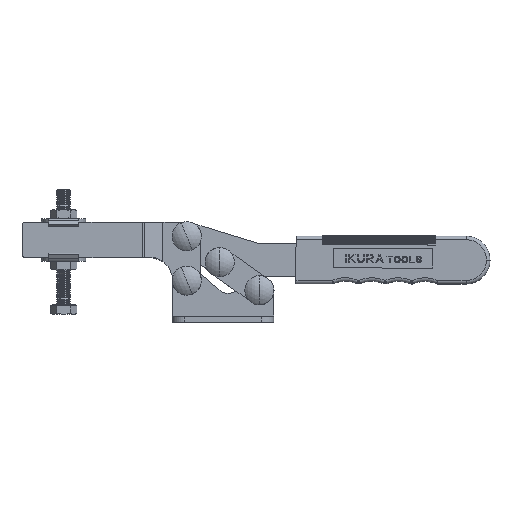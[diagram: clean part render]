
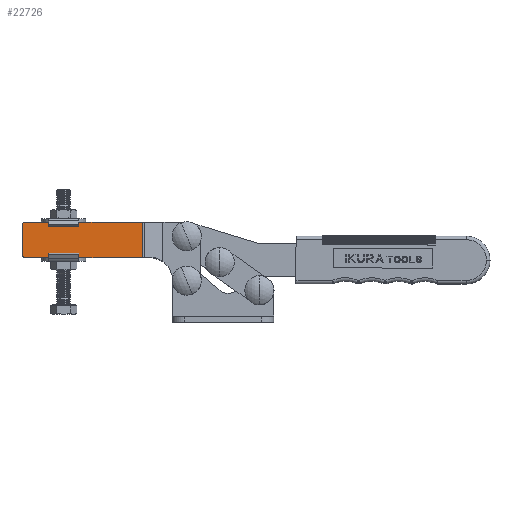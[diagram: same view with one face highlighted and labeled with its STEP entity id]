
A CAD part, top view. The second image highlights one B-rep face of the part: STEP entity #22726.
In plain terms, the highlighted planar face has unit normal (0, 0, 1).
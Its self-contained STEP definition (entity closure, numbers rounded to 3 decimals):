
#689 = DIRECTION ( 'NONE',  ( 1., 0., 0. ) ) ;
#1409 = LINE ( 'NONE', #23791, #13913 ) ;
#1755 = CARTESIAN_POINT ( 'NONE',  ( -33.078, -41., 6.5 ) ) ;
#3712 = DIRECTION ( 'NONE',  ( 1., 0., 0. ) ) ;
#4209 = ORIENTED_EDGE ( 'NONE', *, *, #59602, .T. ) ;
#5184 = DIRECTION ( 'NONE',  ( 0., 0., 1. ) ) ;
#5673 = EDGE_CURVE ( 'NONE', #34408, #45544, #17971, .T. ) ;
#6818 = DIRECTION ( 'NONE',  ( 0., 0., 1. ) ) ;
#8194 = VERTEX_POINT ( 'NONE', #16738 ) ;
#12725 = DIRECTION ( 'NONE',  ( 0., 1., 0. ) ) ;
#13052 = LINE ( 'NONE', #59913, #36571 ) ;
#13913 = VECTOR ( 'NONE', #56190, 1000. ) ;
#14813 = VERTEX_POINT ( 'NONE', #47816 ) ;
#15284 = EDGE_CURVE ( 'NONE', #34408, #14813, #32903, .T. ) ;
#16473 = CARTESIAN_POINT ( 'NONE',  ( -99., 0., 6.5 ) ) ;
#16570 = LINE ( 'NONE', #1755, #40091 ) ;
#16738 = CARTESIAN_POINT ( 'NONE',  ( -33.078, 0., 6.5 ) ) ;
#17971 = LINE ( 'NONE', #22174, #55397 ) ;
#19149 = CARTESIAN_POINT ( 'NONE',  ( -101., -41., 6.5 ) ) ;
#20213 = VERTEX_POINT ( 'NONE', #58249 ) ;
#20776 = EDGE_CURVE ( 'NONE', #56094, #45544, #44172, .T. ) ;
#21661 = EDGE_CURVE ( 'NONE', #14813, #20213, #1409, .T. ) ;
#22017 = CARTESIAN_POINT ( 'NONE',  ( -101., -18., 6.5 ) ) ;
#22174 = CARTESIAN_POINT ( 'NONE',  ( -101., -41., 6.5 ) ) ;
#22726 = ADVANCED_FACE ( 'NONE', ( #38531 ), #33292, .T. ) ;
#23791 = CARTESIAN_POINT ( 'NONE',  ( -101., -20., 6.5 ) ) ;
#24706 = ORIENTED_EDGE ( 'NONE', *, *, #5673, .F. ) ;
#25612 = AXIS2_PLACEMENT_3D ( 'NONE', #34983, #6818, #39733 ) ;
#28805 = DIRECTION ( 'NONE',  ( 0., 0., 1. ) ) ;
#29562 = ORIENTED_EDGE ( 'NONE', *, *, #21661, .T. ) ;
#32903 = CIRCLE ( 'NONE', #35240, 2. ) ;
#33292 = PLANE ( 'NONE',  #40487 ) ;
#34408 = VERTEX_POINT ( 'NONE', #22017 ) ;
#34983 = CARTESIAN_POINT ( 'NONE',  ( -99., -2., 6.5 ) ) ;
#35240 = AXIS2_PLACEMENT_3D ( 'NONE', #56890, #28805, #689 ) ;
#36571 = VECTOR ( 'NONE', #3712, 1000. ) ;
#38027 = DIRECTION ( 'NONE',  ( 1., 0., 0. ) ) ;
#38531 = FACE_OUTER_BOUND ( 'NONE', #44455, .T. ) ;
#39733 = DIRECTION ( 'NONE',  ( 1., 0., 0. ) ) ;
#40091 = VECTOR ( 'NONE', #44298, 1000. ) ;
#40487 = AXIS2_PLACEMENT_3D ( 'NONE', #19149, #5184, #38027 ) ;
#44172 = CIRCLE ( 'NONE', #25612, 2. ) ;
#44298 = DIRECTION ( 'NONE',  ( 0., 1., 0. ) ) ;
#44455 = EDGE_LOOP ( 'NONE', ( #24706, #59477, #29562, #4209, #60835, #47171 ) ) ;
#45544 = VERTEX_POINT ( 'NONE', #57011 ) ;
#47171 = ORIENTED_EDGE ( 'NONE', *, *, #20776, .T. ) ;
#47816 = CARTESIAN_POINT ( 'NONE',  ( -99., -20., 6.5 ) ) ;
#51747 = EDGE_CURVE ( 'NONE', #56094, #8194, #13052, .T. ) ;
#55397 = VECTOR ( 'NONE', #12725, 1000. ) ;
#56094 = VERTEX_POINT ( 'NONE', #16473 ) ;
#56190 = DIRECTION ( 'NONE',  ( 1., 0., 0. ) ) ;
#56890 = CARTESIAN_POINT ( 'NONE',  ( -99., -18., 6.5 ) ) ;
#57011 = CARTESIAN_POINT ( 'NONE',  ( -101., -2., 6.5 ) ) ;
#58249 = CARTESIAN_POINT ( 'NONE',  ( -33.078, -20., 6.5 ) ) ;
#59477 = ORIENTED_EDGE ( 'NONE', *, *, #15284, .T. ) ;
#59602 = EDGE_CURVE ( 'NONE', #20213, #8194, #16570, .T. ) ;
#59913 = CARTESIAN_POINT ( 'NONE',  ( -101., 0., 6.5 ) ) ;
#60835 = ORIENTED_EDGE ( 'NONE', *, *, #51747, .F. ) ;
